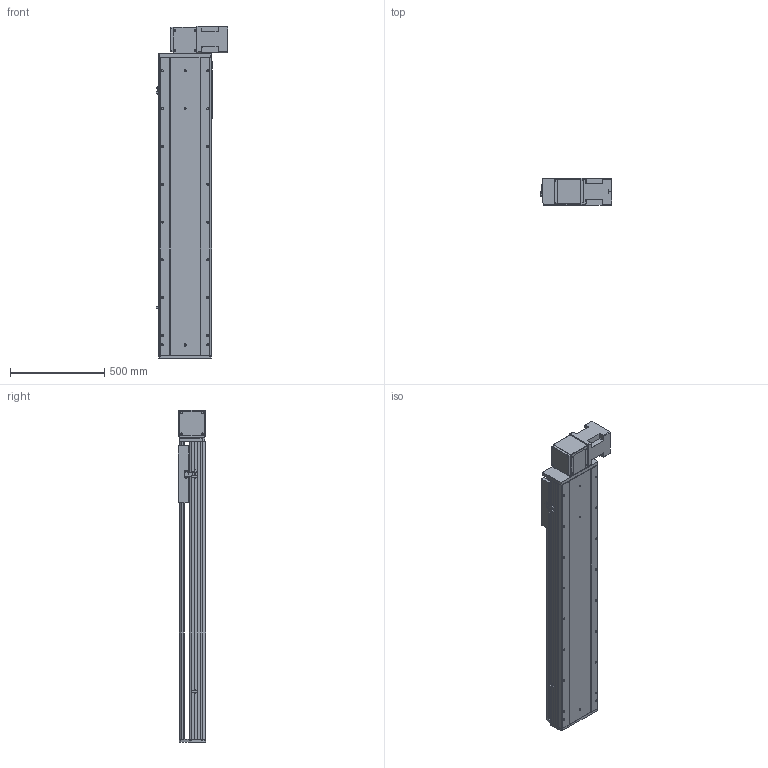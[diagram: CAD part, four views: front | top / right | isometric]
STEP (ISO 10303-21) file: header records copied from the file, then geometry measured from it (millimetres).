
FILE_DESCRIPTION (( 'STEP AP214' ), '1' );
FILE_NAME ('RTB28S-XX-1150-BL-M100-XX-C4.STEP', '2025-12-22T02:20:42', ( '' ), ( '' ), 'SwSTEP 2.0', 'SolidWorks 2018', '' );
FILE_SCHEMA (( 'AUTOMOTIVE_DESIGN' ));
Length unit declared in the file: millimetre
Products named in the file (4): RTB28S-XX-1150-BL-M100-XX-C4; RTB28S-GY-004^RTB28S-XX-XX-BL-M100-XX-C4; RTB28S-GY-008^RTB28S-XX-XX-BL-M100-XX-C4; RTB28S-GY-011^RTB28S-XX-XX-BL-M100-XX-C4
Assembly tree (3 placements, depth 2):
  RTB28S-XX-1150-BL-M100-XX-C4
    RTB28S-GY-011^RTB28S-XX-XX-BL-M100-XX-C4
    RTB28S-GY-004^RTB28S-XX-XX-BL-M100-XX-C4
    RTB28S-GY-008^RTB28S-XX-XX-BL-M100-XX-C4
Bounding box: 380.7 x 145 x 1757 mm (x, y, z)
Volume: 31969504.4 mm3; surface area: 3076135 mm2
Topology: 3 solids, 4 shells, 798 faces, 2118 edges, 1348 vertices
Faces by surface type: cylinder 367, plane 347, cone 80, torus 4
Entity records: 29999 total; most frequent: CARTESIAN_POINT 5152, DIRECTION 4488, ORIENTED_EDGE 4172, EDGE_CURVE 2086, AXIS2_PLACEMENT_3D 1624, VERTEX_POINT 1348, LINE 1240, VECTOR 1240
